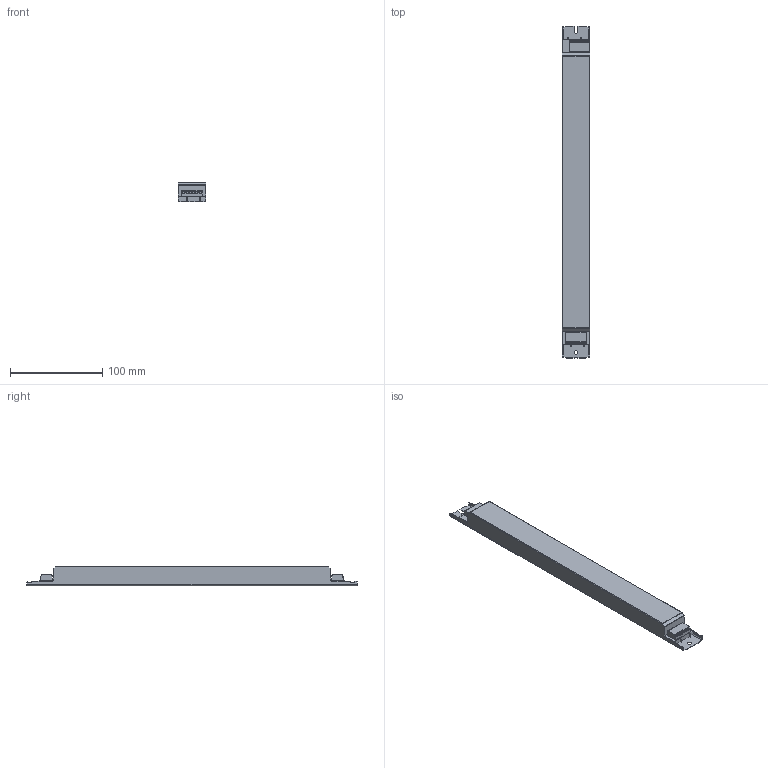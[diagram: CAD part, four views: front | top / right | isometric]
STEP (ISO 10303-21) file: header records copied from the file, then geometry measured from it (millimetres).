
FILE_DESCRIPTION((''),'2;1');
FILE_NAME('15007868Z_360X30_ECO35Z','2013-09-13T',('juergen.hrach'),(''),'PRO/ENGINEER BY PARAMETRIC TECHNOLOGY CORPORATION, 2012420','PRO/ENGINEER BY PARAMETRIC TECHNOLOGY CORPORATION, 2012420','');
FILE_SCHEMA(('AUTOMOTIVE_DESIGN { 1 2 10303 214 0 1 1 1 }'));
Length unit declared in the file: millimetre
Products named in the file (1): 15007868Z_360X30_ECO35Z
Bounding box: 30 x 360 x 21 mm (x, y, z)
Volume: 197714.6 mm3; surface area: 36372.4 mm2
Topology: 1 solids, 1 shells, 175 faces, 506 edges, 336 vertices
Faces by surface type: plane 89, cylinder 86
Entity records: 7676 total; most frequent: CARTESIAN_POINT 1385, ORIENTED_EDGE 1012, DIRECTION 929, PRESENTATION_STYLE_ASSIGNMENT 509, STYLED_ITEM 507, CURVE_STYLE 506, EDGE_CURVE 506, VERTEX_POINT 336
